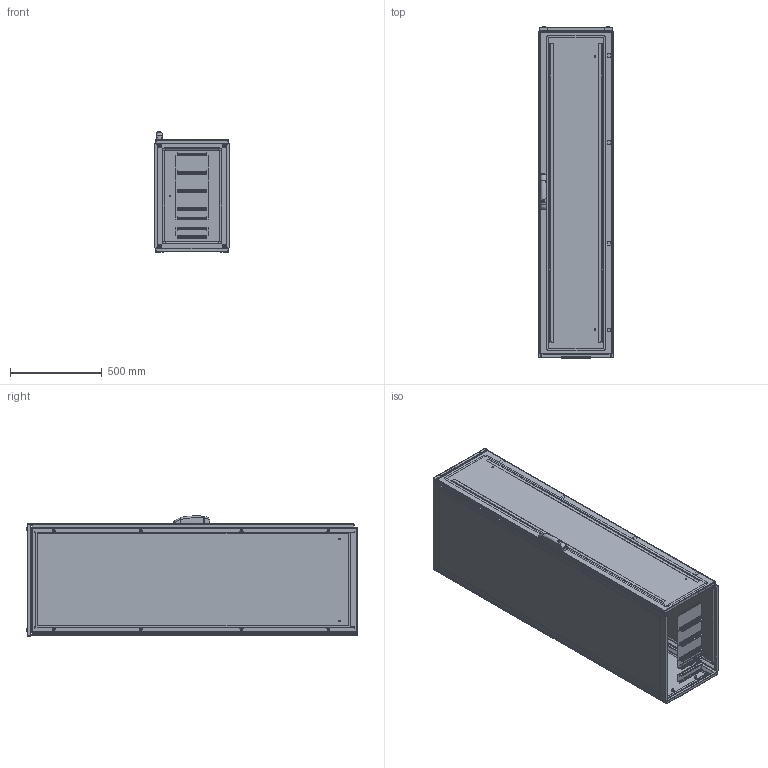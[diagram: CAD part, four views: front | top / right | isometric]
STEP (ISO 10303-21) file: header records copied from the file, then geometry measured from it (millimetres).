
FILE_DESCRIPTION (( 'STEP AP203' ), '1' );
FILE_NAME ('ENUX041806PR.STEP', '2025-05-28T14:25:51', ( '' ), ( '' ), 'SwSTEP 2.0', 'SolidWorks 2022', '' );
FILE_SCHEMA (( 'CONFIG_CONTROL_DESIGN' ));
Products named in the file (12): AR_ENUX_nuova_maniglia_mesan; AR_ENUX_Tegolino_0400x0050; AR_ENUX_montaggio_porta_singlola_2.0_0400x1800_ANT_DX; AR_ENUX_Struttura_0400x1800x0600; ENUX041806PR; AR_ENUX_Vite_tetto; AR_ENUX_Porta_singola_2.0_0400x1800_ANT; AR_ENUX_Fianco_0600x1800_DX; AR_ENUX_Fianco_0600x1800_SX; AR_ENUX_Retro_singolo_0400x1800; AR_ENUX_Tetto_0400x0600; AR_ENUX_Tegolino_0400x0100
Assembly tree (17 placements, depth 3):
  ENUX041806PR
    AR_ENUX_Struttura_0400x1800x0600
    AR_ENUX_Retro_singolo_0400x1800
    AR_ENUX_montaggio_porta_singlola_2.0_0400x1800_ANT_DX
      AR_ENUX_Porta_singola_2.0_0400x1800_ANT
      AR_ENUX_nuova_maniglia_mesan
    AR_ENUX_Fianco_0600x1800_SX
    AR_ENUX_Fianco_0600x1800_DX
    AR_ENUX_Tetto_0400x0600
    AR_ENUX_Vite_tetto  x4
    AR_ENUX_Tegolino_0400x0100  x3
    AR_ENUX_Tegolino_0400x0050  x2
Bounding box: 412 x 1812.6 x 657 mm (x, y, z)
Volume: 6682874.1 mm3; surface area: 9526295.8 mm2
Topology: 15 solids, 15 shells, 1967 faces, 5089 edges, 3108 vertices
Faces by surface type: plane 807, cylinder 757, cone 180, torus 130, sphere 60, bspline 33
Entity records: 285453 total; most frequent: CARTESIAN_POINT 83331, ORIENTED_EDGE 41936, DIRECTION 39979, EDGE_CURVE 20968, VECTOR 14165, LINE 14165, VERTEX_POINT 13558, AXIS2_PLACEMENT_3D 12907
